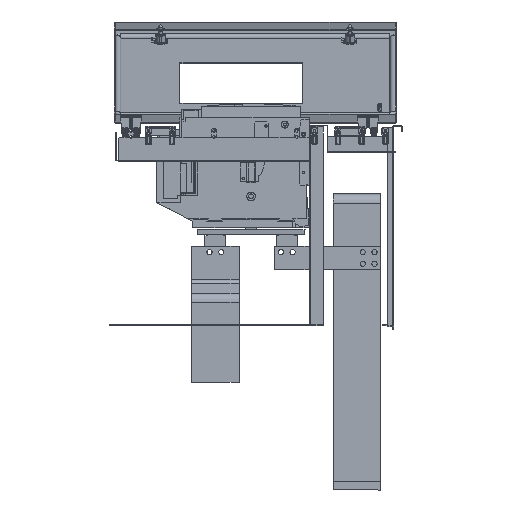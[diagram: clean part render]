
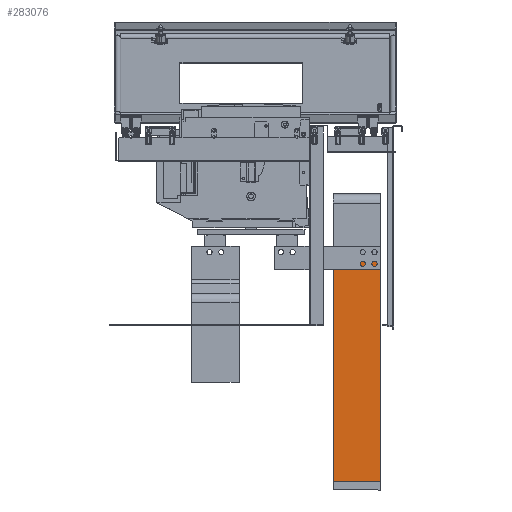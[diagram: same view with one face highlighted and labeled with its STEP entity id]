
A CAD part, left-side view. The second image highlights one B-rep face of the part: STEP entity #283076.
In plain terms, the highlighted planar face has unit normal (-1, 0, 0).
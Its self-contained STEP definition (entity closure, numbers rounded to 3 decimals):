
#282586=CARTESIAN_POINT(' ',(-5.,50.,0.));
#282591=DIRECTION(' ',(0.,-1.,0.));
#282596=VECTOR(' ',#282591,1.);
#282601=LINE('',#282586,#282596);
#282606=CARTESIAN_POINT(' ',(-5.,50.,0.));
#282607=VERTEX_POINT(' ',#282606);
#282611=CARTESIAN_POINT(' ',(-5.,-50.,0.));
#282612=VERTEX_POINT(' ',#282611);
#282616=EDGE_CURVE(' ',#282607,#282612,#282601,.T.);
#282736=CARTESIAN_POINT(' ',(-5.,50.,497.));
#282741=DIRECTION(' ',(0.,0.,-1.));
#282746=VECTOR(' ',#282741,1.);
#282751=LINE('',#282736,#282746);
#282756=CARTESIAN_POINT(' ',(-5.,50.,497.));
#282757=VERTEX_POINT(' ',#282756);
#282761=EDGE_CURVE(' ',#282757,#282607,#282751,.T.);
#282846=CARTESIAN_POINT(' ',(-5.,50.,497.));
#282851=DIRECTION(' ',(0.,-1.,0.));
#282856=VECTOR(' ',#282851,1.);
#282861=LINE('',#282846,#282856);
#282866=CARTESIAN_POINT(' ',(-5.,-50.,497.));
#282867=VERTEX_POINT(' ',#282866);
#282871=EDGE_CURVE(' ',#282757,#282867,#282861,.T.);
#282976=CARTESIAN_POINT(' ',(-5.,-50.,497.));
#282981=DIRECTION(' ',(0.,0.,-1.));
#282986=VECTOR(' ',#282981,1.);
#282991=LINE('',#282976,#282986);
#282996=EDGE_CURVE(' ',#282867,#282612,#282991,.T.);
#283021=DIRECTION(' ',(-1.,0.,0.));
#283026=CARTESIAN_POINT(' ',(-5.,-50.,0.));
#283031=DIRECTION(' ',(0.,0.,1.));
#283036=AXIS2_PLACEMENT_3D(' ',#283026,#283021,#283031);
#283041=PLANE('NONE',#283036);
#283046=ORIENTED_EDGE(' ',*,*,#282616,.T.);
#283051=ORIENTED_EDGE(' ',*,*,#282996,.F.);
#283056=ORIENTED_EDGE(' ',*,*,#282871,.F.);
#283061=ORIENTED_EDGE(' ',*,*,#282761,.T.);
#283066=EDGE_LOOP(' ',(#283046,#283051,#283056,#283061));
#283071=FACE_OUTER_BOUND(' ',#283066,.T.);
#283076=ADVANCED_FACE('NONE',(#283071),#283041,.T.);
